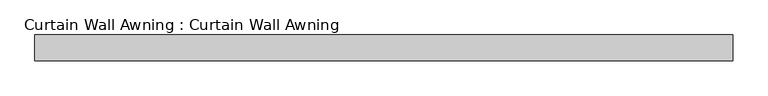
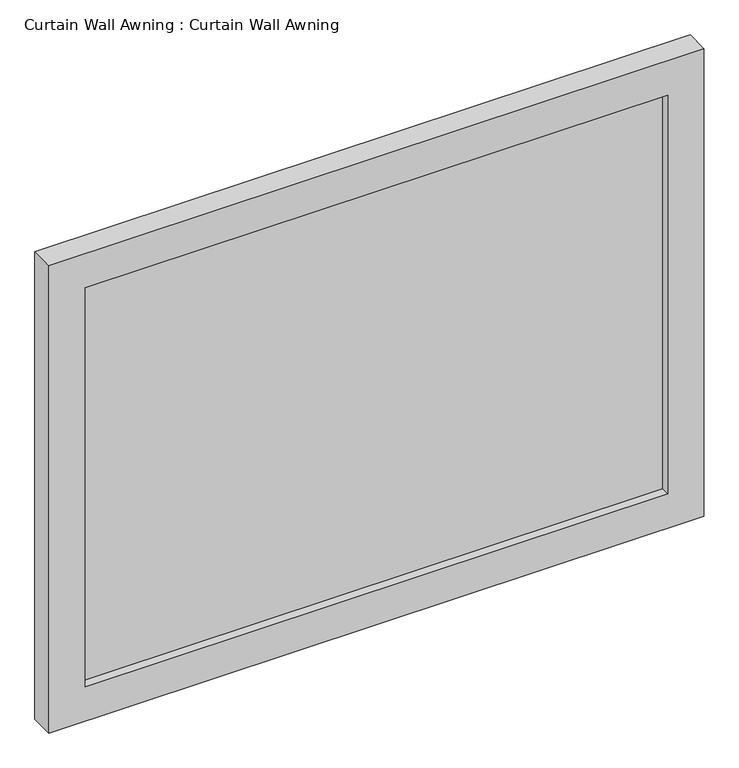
"""IFC4 building model written with IfcOpenShell, lengths in millimetres: plate geometry, Curtain Wall Awning : Curtain Wall Awning."""

import ifcopenshell
import ifcopenshell.guid

model = None  # the IFC model being written
_history = None  # IfcOwnerHistory: only IFC2X3 demands one
_inside = {}  # id of a spatial element -> (the spatial element, [elements in it])
_under = {}  # id of a project, library or spatial element -> (it, [spatial elements below it])
_declared = {}  # id of a project -> (the project, [libraries it declares])
_typed = {}  # id of a type object -> (the type object, [elements of that type])
_made_of = {}  # id of a material, layer set ... -> (it, [elements and type objects made of it])


def new_model(schema):
    """Start an empty IFC model of exactly this schema.

    Asked for "IFC4X3", IfcOpenShell would pick the latest addendum, in which some entities
    have other attributes; the version numbers below select the first issue.
    IFC2X3 requires an IfcOwnerHistory on every rooted entity: one is made here for all.
    """
    global model, _history
    if schema == "IFC4X3":
        model = ifcopenshell.file(schema_version=(4, 3, 0, 0))
    else:
        model = ifcopenshell.file(schema=schema)
    _inside.clear()
    _under.clear()
    _declared.clear()
    _typed.clear()
    _made_of.clear()
    _history = None
    if model.schema == "IFC2X3":
        org = make("IfcOrganization", Name="unknown")
        user = make(
            "IfcPersonAndOrganization",
            ThePerson=make("IfcPerson", FamilyName="unknown"),
            TheOrganization=org,
        )
        app = make(
            "IfcApplication",
            ApplicationDeveloper=org,
            Version="unknown",
            ApplicationFullName="unknown",
            ApplicationIdentifier="unknown",
        )
        _history = make(
            "IfcOwnerHistory",
            OwningUser=user,
            OwningApplication=app,
            ChangeAction="ADDED",
            CreationDate=0,
        )
    return model


def make(cls, **values):
    """One entity of the class cls with the attributes given. An attribute that is None is left unset."""
    return model.create_entity(
        cls, **{name: value for name, value in values.items() if value is not None}
    )


def rooted(cls, **values):
    """An entity with a GlobalId (a new one), such as an element, a storey or a relation."""
    return make(cls, GlobalId=ifcopenshell.guid.new(), OwnerHistory=_history, **values)


def si_unit(unit_type, name, prefix=None):
    """IfcSIUnit, for example si_unit("LENGTHUNIT", "METRE", prefix="MILLI")."""
    return make("IfcSIUnit", UnitType=unit_type, Prefix=prefix, Name=name)


def assignment(units):
    """IfcUnitAssignment: the units of a project."""
    return None if units is None else make("IfcUnitAssignment", Units=units)


def point(xyz):
    """IfcCartesianPoint."""
    return None if xyz is None else make("IfcCartesianPoint", Coordinates=xyz)


def direction(xyz):
    """IfcDirection."""
    return None if xyz is None else make("IfcDirection", DirectionRatios=xyz)


def frame(location, z_axis=None, x_axis=None):
    """IfcAxis2Placement3D, a coordinate frame: its origin and axes. An axis left out is left unset."""
    return make(
        "IfcAxis2Placement3D",
        Location=point(location),
        Axis=direction(z_axis),
        RefDirection=direction(x_axis),
    )


def origin():
    """The frame at (0, 0, 0) with its axes left unset."""
    return frame((0.0, 0.0, 0.0))


def place(relative_to, where):
    """IfcLocalPlacement: puts the frame where relative to a parent placement (None: the world)."""
    return make(
        "IfcLocalPlacement", PlacementRelTo=relative_to, RelativePlacement=where
    )


def context(
    kind, dimensions, precision=None, world=None, true_north=None, identifier=None
):
    """IfcGeometricRepresentationContext, for example the 3D "Model" context."""
    return make(
        "IfcGeometricRepresentationContext",
        ContextIdentifier=identifier,
        ContextType=kind,
        CoordinateSpaceDimension=dimensions,
        Precision=precision,
        WorldCoordinateSystem=world,
        TrueNorth=true_north,
    )


def project(units=None, contexts=None):
    """IfcProject with its units and contexts."""
    return rooted(
        "IfcProject",
        Name="project",
        RepresentationContexts=contexts,
        UnitsInContext=assignment(units),
    )


def spatial(cls, under=None, at=None, **own):
    """A site, building, storey or space (cls), placed at a placement, below another one or the project."""
    s = rooted(cls, ObjectPlacement=at, **own)
    if under is not None:
        _under.setdefault(under.id(), (under, []))[1].append(s)
    return s


def polyline(points):
    """IfcPolyline through the points."""
    return make("IfcPolyline", Points=[point(p) for p in points])


def outline(outer, holes=None, kind="AREA"):
    """IfcArbitraryClosedProfileDef: a profile drawn as a closed curve; with holes, ...WithVoids."""
    if holes is None:
        return make("IfcArbitraryClosedProfileDef", ProfileType=kind, OuterCurve=outer)
    return make(
        "IfcArbitraryProfileDefWithVoids",
        ProfileType=kind,
        OuterCurve=outer,
        InnerCurves=holes,
    )


def extrude(swept, where, along, depth):
    """IfcExtrudedAreaSolid: the profile swept, set in the frame where, extruded along a direction by depth."""
    return make(
        "IfcExtrudedAreaSolid",
        SweptArea=swept,
        Position=where,
        ExtrudedDirection=direction(along),
        Depth=depth,
    )


def shape(context_of_items, identifier, shape_type, items):
    """IfcShapeRepresentation: the items that make up one representation, for example the "Body"."""
    return make(
        "IfcShapeRepresentation",
        ContextOfItems=context_of_items,
        RepresentationIdentifier=identifier,
        RepresentationType=shape_type,
        Items=items,
    )


def source(mapping_origin, context_of_items, identifier, shape_type, items):
    """IfcRepresentationMap: a shape defined once, which mapped items show again and again."""
    return make(
        "IfcRepresentationMap",
        MappingOrigin=mapping_origin,
        MappedRepresentation=shape(context_of_items, identifier, shape_type, items),
    )


def transform(
    local_origin,
    x_axis=None,
    y_axis=None,
    z_axis=None,
    scale=None,
    scale2=None,
    scale3=None,
    uniform=True,
):
    """IfcCartesianTransformationOperator3D, or its non-uniform kind. x_axis, y_axis, z_axis: its Axis1, 2, 3."""
    if uniform:
        return make(
            "IfcCartesianTransformationOperator3D",
            Axis1=direction(x_axis),
            Axis2=direction(y_axis),
            LocalOrigin=point(local_origin),
            Scale=scale,
            Axis3=direction(z_axis),
        )
    return make(
        "IfcCartesianTransformationOperator3DnonUniform",
        Axis1=direction(x_axis),
        Axis2=direction(y_axis),
        LocalOrigin=point(local_origin),
        Scale=scale,
        Axis3=direction(z_axis),
        Scale2=scale2,
        Scale3=scale3,
    )


def mapped(mapping_source, mapping_target):
    """IfcMappedItem: shows the shape of a source again, moved by a transform."""
    return make(
        "IfcMappedItem", MappingSource=mapping_source, MappingTarget=mapping_target
    )


def made_of(thing, what):
    """Note that an element or type object is made of a material, layer set ...; save() writes the relation."""
    if what is not None:
        _made_of.setdefault(what.id(), (what, []))[1].append(thing)
    return thing


def element(
    cls,
    number,
    at=None,
    inside=None,
    cuts=None,
    type_object=None,
    material=None,
    context=None,
    identifier="Body",
    shape_type=None,
    held_by="IfcProductDefinitionShape",
    body=None,
    shapes=None,
    **own,
):
    """One element of the class cls, such as IfcWall. Its Tag is "e" and its number.

    at: its placement. inside: the storey or other place that contains it. cuts: it is an
    opening in that element (IfcRelVoidsElement). A single representation is given by context,
    identifier, shape_type and body (its items); several are given by shapes. held_by: the class
    of the entity that holds the representations. save() writes the other relations.
    """
    e = rooted(cls, Tag="e%d" % number, ObjectPlacement=at, **own)
    if body is not None:
        shapes = [shape(context, identifier, shape_type, body)]
    if shapes is not None:
        e.Representation = make(held_by, Representations=shapes)
    if inside is not None:
        _inside.setdefault(inside.id(), (inside, []))[1].append(e)
    if cuts is not None:
        rooted(
            "IfcRelVoidsElement", RelatingBuildingElement=cuts, RelatedOpeningElement=e
        )
    if type_object is not None:
        _typed.setdefault(type_object.id(), (type_object, []))[1].append(e)
    return made_of(e, material)


def aggregate(whole, parts):
    """IfcRelAggregates: a whole, such as a stair, and the parts it consists of."""
    return rooted("IfcRelAggregates", RelatingObject=whole, RelatedObjects=parts)


def save(model, path):
    """Write the relations noted so far, then the file.

    IfcRelAggregates (storeys below a building ...), IfcRelContainedInSpatialStructure (elements
    in a storey), IfcRelDefinesByType, IfcRelAssociatesMaterial and IfcRelDeclares: one each for
    every whole, place, type object, material and project.
    """
    for whole, parts in _under.values():
        aggregate(whole, parts)
    for where, things in _inside.values():
        rooted(
            "IfcRelContainedInSpatialStructure",
            RelatedElements=things,
            RelatingStructure=where,
        )
    for kind, things in _typed.values():
        rooted("IfcRelDefinesByType", RelatedObjects=things, RelatingType=kind)
    for what, things in _made_of.values():
        rooted("IfcRelAssociatesMaterial", RelatedObjects=things, RelatingMaterial=what)
    for by, libraries in _declared.values():
        rooted("IfcRelDeclares", RelatingContext=by, RelatedDefinitions=libraries)
    model.write(path)


def curtain_wall_awning_curtain_wall_awning_ca8f6931(model_context):
    return source(origin(), model_context, "Body", "SweptSolid", [
        extrude(outline(polyline([(612.3886914, 44.45), (-612.3886914, 44.45), (-612.3886914, 57.15), (612.3886914, 57.15), (612.3886914, 44.45)])), frame((0.0, 0.0, 76.2), z_axis=(0.0, 0.0, 1.0), x_axis=(1.0, 0.0, 0.0)), (0.0, 0.0, 1.0), 886.3193103),
        extrude(outline(polyline([(1038.7193103, -688.5886914), (0.0, -688.5886914), (0.0, 688.5886914), (1038.7193103, 688.5886914), (1038.7193103, -688.5886914)]), holes=[polyline([(962.5193103, -612.3886914), (962.5193103, 612.3886914), (76.2, 612.3886914), (76.2, -612.3886914), (962.5193103, -612.3886914)])]), frame((0.0, 25.4, 0.0), z_axis=(0.0, 1.0, 0.0), x_axis=(0.0, 0.0, 1.0)), (0.0, 0.0, 1.0), 50.8),
    ])


if __name__ == "__main__":
    model = new_model("IFC4")
    model_context = context("Model", 3, world=origin())
    ifc_project = project(units=[si_unit("LENGTHUNIT", "METRE", prefix="MILLI")], contexts=[model_context])
    site = spatial("IfcSite", under=ifc_project)
    building = spatial("IfcBuilding", under=site)
    placement = place(None, origin())
    curtain_wall_awning_curtain_wall_awning_shape = curtain_wall_awning_curtain_wall_awning_ca8f6931(model_context)
    element("IfcPlate", 1, ObjectType="Curtain Wall Awning : Curtain Wall Awning", at=placement, inside=building, context=model_context, shape_type="MappedRepresentation", body=[
        mapped(curtain_wall_awning_curtain_wall_awning_shape, transform((0.0, 0.0, 0.0), x_axis=(1.0, 0.0, 0.0), y_axis=(0.0, 1.0, 0.0), z_axis=(0.0, 0.0, 1.0))),
    ])
    save(model, "model.ifc")
